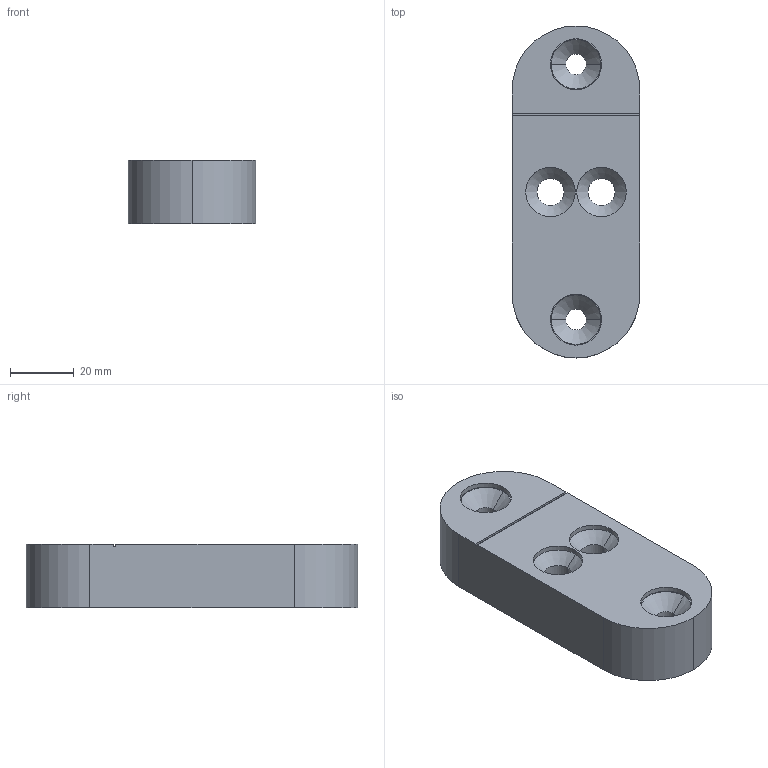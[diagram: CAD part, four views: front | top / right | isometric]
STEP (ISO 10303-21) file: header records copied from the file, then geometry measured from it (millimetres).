
FILE_DESCRIPTION (( 'STEP AP203' ), '1' );
FILE_NAME ('OV40.STEP', '2021-02-11T14:17:09', ( '' ), ( '' ), 'SwSTEP 2.0', 'SolidWorks 2013', '' );
FILE_SCHEMA (( 'CONFIG_CONTROL_DESIGN' ));
Length unit declared in the file: millimetre
Products named in the file (1): OV40
Bounding box: 40 x 104 x 20 mm (x, y, z)
Volume: 70797.8 mm3; surface area: 14306.1 mm2
Topology: 1 solids, 1 shells, 38 faces, 90 edges, 56 vertices
Faces by surface type: cylinder 20, plane 10, cone 8
Entity records: 1197 total; most frequent: DIRECTION 212, CARTESIAN_POINT 185, ORIENTED_EDGE 180, EDGE_CURVE 90, AXIS2_PLACEMENT_3D 83, VERTEX_POINT 56, EDGE_LOOP 48, LINE 46
